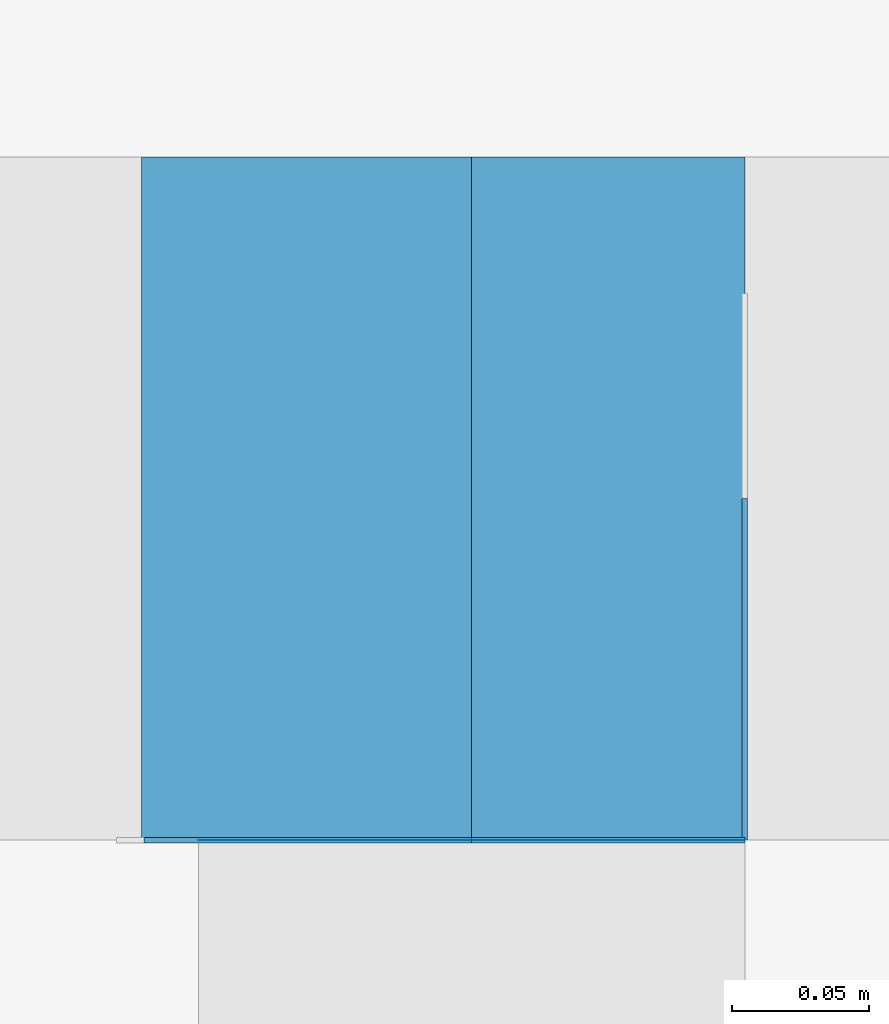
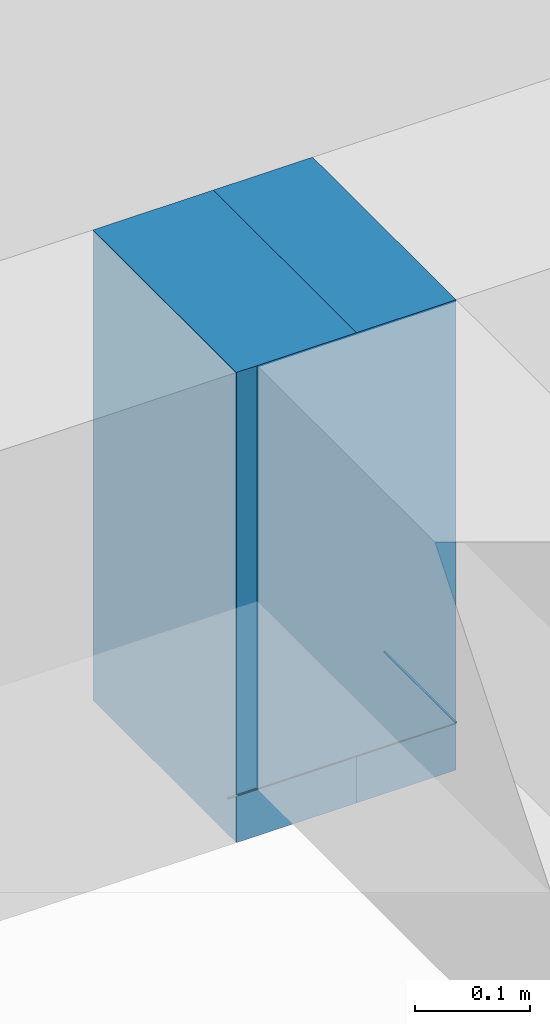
# One storey, part 6 of 17: 6 beams.
"""IFC2X3 building model written with IfcOpenShell, lengths in metres."""

from ifc_helpers import new_model, si_unit, direction, frame, origin_with_axes, place, context, subcontext, project, spatial, polyline, outline, extrude, material, type_object, element, save


model = new_model("IFC2X3")

# Units and contexts
model_context = context("Model", 3, precision=0.0001, world=origin_with_axes(), true_north=direction((0.0, 1.0)))
plan_context = context("Plan", 2, precision=0.0001, world=origin_with_axes(), true_north=direction((0.0, 1.0)))
body_context = subcontext(model_context, "Body", "Model", "MODEL_VIEW")
ifc_project = project(units=[si_unit("MASSUNIT", "GRAM", prefix="KILO"), si_unit("AREAUNIT", "SQUARE_METRE"), si_unit("LENGTHUNIT", "METRE"), si_unit("VOLUMEUNIT", "CUBIC_METRE")], contexts=[plan_context, model_context])

# Site, building, storey
site_placement = place(None, origin_with_axes())
site = spatial("IfcSite", under=ifc_project, at=site_placement, Name="$", CompositionType="ELEMENT")
building_placement = place(site_placement, origin_with_axes())
building = spatial("IfcBuilding", under=site, at=building_placement, Name="Classeur ENS Ensemble", CompositionType="ELEMENT")
storey_placement = place(building_placement, frame((-20.30778888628, -1.812671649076, 0.0), z_axis=(0.0, 0.0, 1.0), x_axis=(1.0, 0.0, 0.0)))
storey = spatial("IfcBuildingStorey", under=building, at=storey_placement, Name="001 RdC", CompositionType="ELEMENT", Elevation=0.0)

# Beams
ifc_material = material(Name="Default material")
beam_type = type_object("IfcBeamType", PredefinedType="BEAM")
beam_1_placement = place(storey_placement, frame((21.2532953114, -2.847295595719, 2.849999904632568), z_axis=(0.0, 0.0, 1.0), x_axis=(0.0, 0.9999999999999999, 0.0)))
element("IfcBeam", 1, at=beam_1_placement, inside=storey, type_object=beam_type, material=ifc_material, Name="poutre fictive", context=body_context, shape_type="SweptSolid", held_by="IfcProductRepresentation", body=[
    extrude(outline(polyline([(0.0, 0.001000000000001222), (0.0, 0.001000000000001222), (0.0, 0.001000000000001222), (0.1249672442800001, 0.001000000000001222), (0.1249672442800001, 0.001000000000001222), (0.1249672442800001, 0.001000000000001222), (0.1249672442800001, -0.0009999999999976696), (0.1249672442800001, -0.0009999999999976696), (0.1249672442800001, -0.0009999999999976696), (0.0, -0.0009999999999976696), (0.0, -0.0009999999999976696), (0.0, -0.0009999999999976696), (0.0, 0.001000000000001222)])), origin_with_axes(), (0.0, 0.0, 1.0), 0.001),
])
beam_2_placement = place(storey_placement, frame((21.0332953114, -2.847331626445, 2.849999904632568), z_axis=(0.0, 0.0, 1.0), x_axis=(0.999999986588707, 0.0001637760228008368, 0.0)))
element("IfcBeam", 2, at=beam_2_placement, inside=storey, type_object=beam_type, material=ifc_material, Name="poutre fictive 285", context=body_context, shape_type="SweptSolid", held_by="IfcProductRepresentation", body=[
    extrude(outline(polyline([(4.276099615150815e-15, 0.000999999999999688), (4.276099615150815e-15, 0.000999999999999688), (4.276099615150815e-15, 0.000999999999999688), (0.1200000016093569, 0.001000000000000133), (0.1200000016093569, 0.001000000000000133), (0.1200000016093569, 0.001000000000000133), (0.1200000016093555, -0.0009999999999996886), (0.1200000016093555, -0.0009999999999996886), (0.1200000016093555, -0.0009999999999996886), (-7.234587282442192e-16, -0.001000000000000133), (-7.234587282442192e-16, -0.001000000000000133), (-7.234587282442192e-16, -0.001000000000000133), (4.276099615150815e-15, 0.000999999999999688)])), origin_with_axes(), (0.0, 0.0, 1.0), 0.001),
])
beam_3_placement = place(storey_placement, frame((21.03234589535, -2.722328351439, 2.799999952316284), z_axis=(0.0, 0.0, 1.0), x_axis=(1.0, 0.0, 0.0)))
element("IfcBeam", 3, at=beam_3_placement, inside=storey, type_object=beam_type, material=ifc_material, Name="poutre BA", context=body_context, shape_type="SweptSolid", held_by="IfcProductRepresentation", body=[
    extrude(outline(polyline([(0.0, 0.125), (0.0, 0.125), (0.0, 0.125), (0.1209494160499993, 0.125), (0.1209494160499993, 0.125), (0.1209494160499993, 0.125), (0.1209494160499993, -0.125), (0.02094941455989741, -0.125), (0.02094941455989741, -0.125), (0.0, -0.125), (0.0, -0.125), (0.0, -0.125), (0.0, 0.125)])), origin_with_axes(), (0.0, 0.0, 1.0), 0.5),
])
beam_4_placement = place(storey_placement, frame((21.1532953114, -2.847311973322, 2.849999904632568), z_axis=(0.0, 0.0, 1.0), x_axis=(0.9999999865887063, 0.0001637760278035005, 0.0)))
element("IfcBeam", 4, at=beam_4_placement, inside=storey, type_object=beam_type, material=ifc_material, Name="poutre fictive 285", context=body_context, shape_type="SweptSolid", held_by="IfcProductRepresentation", body=[
    extrude(outline(polyline([(-1.379304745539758e-15, 0.001000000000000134), (-1.379304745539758e-15, 0.001000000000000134), (-1.379304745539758e-15, 0.001000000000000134), (0.1000000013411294, 0.001000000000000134), (0.1000000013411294, 0.001000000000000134), (0.1000000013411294, 0.001000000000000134), (0.1000000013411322, -0.0009999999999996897), (0.1000000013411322, -0.0009999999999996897), (0.1000000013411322, -0.0009999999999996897), (1.379377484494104e-15, -0.0009999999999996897), (1.379377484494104e-15, -0.0009999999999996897), (1.379377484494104e-15, -0.0009999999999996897), (-1.379304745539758e-15, 0.001000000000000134)])), origin_with_axes(), (0.0, 0.0, 1.0), 0.001),
])
beam_5_placement = place(storey_placement, frame((21.1532953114, -2.722328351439, 2.799999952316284), z_axis=(0.0, 0.0, 1.0), x_axis=(1.0, 0.0, 0.0)))
element("IfcBeam", 5, at=beam_5_placement, inside=storey, type_object=beam_type, material=ifc_material, Name="poutre BA", context=body_context, shape_type="SweptSolid", held_by="IfcProductRepresentation", body=[
    extrude(outline(polyline([(0.0, 0.125), (0.0, 0.125), (0.0, 0.125), (0.1000000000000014, 0.125), (0.1000000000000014, 0.125), (0.1000000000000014, 0.125), (0.1000000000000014, -0.125), (0.1000000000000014, -0.125), (0.1000000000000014, -0.125), (0.1000000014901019, -0.125), (0.1000000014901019, -0.125), (0.0, -0.125), (0.0, 0.125)])), origin_with_axes(), (0.0, 0.0, 1.0), 0.5),
])
beam_6_placement = place(storey_placement, frame((21.1532953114, -2.847311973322, 2.849999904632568), z_axis=(0.0, 0.0, 1.0), x_axis=(0.0, 1.0, 0.0)))
element("IfcBeam", 6, at=beam_6_placement, inside=storey, type_object=beam_type, material=ifc_material, Name="poutre BA", context=body_context, shape_type="SweptSolid", held_by="IfcProductRepresentation", body=[
    extrude(outline(polyline([(0.0, 0.1000000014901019), (0.0, 0.1000000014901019), (0.0, 0.1000000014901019), (-1.637811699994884e-05, 0.1000000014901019), (-1.637811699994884e-05, 0.1000000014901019), (-1.637811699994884e-05, 0.1000000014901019), (-1.637811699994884e-05, -0.1000000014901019), (-1.637811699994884e-05, -0.1000000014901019), (-1.637811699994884e-05, -0.1000000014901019), (0.0, -0.1000000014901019), (0.0, -0.1000000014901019), (0.0, -0.1000000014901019), (0.0, 0.1000000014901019)])), origin_with_axes(), (0.0, 0.0, 1.0), 0.449999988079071),
])

save(model, "model.ifc")
